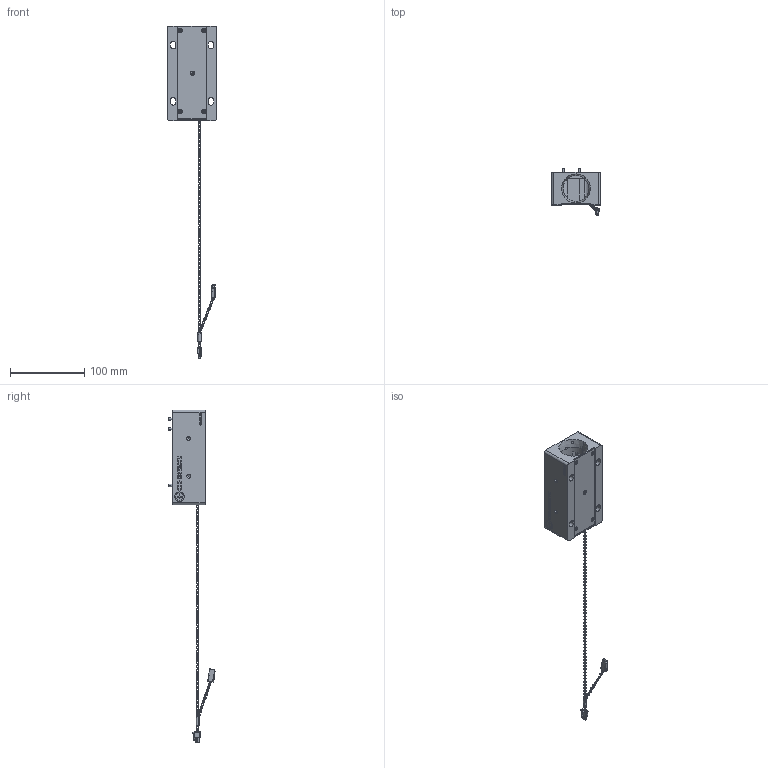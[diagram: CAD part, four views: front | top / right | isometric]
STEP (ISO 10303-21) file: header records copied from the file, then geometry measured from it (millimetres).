
FILE_DESCRIPTION (( 'STEP AP214' ), '1' );
FILE_NAME ('1073840rAM CUBE Heatsink Assembly.STEP', '2011-03-21T14:19:11', ( 'coherent' ), ( '' ), 'SwSTEP 2.0', 'SolidWorks 2011', '' );
FILE_SCHEMA (( 'AUTOMOTIVE_DESIGN' ));
Length unit declared in the file: inch
Products named in the file (1): 1073840rAM CUBE Heatsink Assembly
Bounding box: 66.05 x 63.22 x 445.75 mm (x, y, z)
Volume: 237388.6 mm3; surface area: 77095.6 mm2
Topology: 25 solids, 25 shells, 1354 faces, 3458 edges, 2222 vertices
Faces by surface type: plane 798, cylinder 270, bspline 185, cone 101
Entity records: 90789 total; most frequent: CARTESIAN_POINT 41121, ORIENTED_EDGE 6836, DIRECTION 5895, EDGE_CURVE 3418, LINE 2339, VECTOR 2339, VERTEX_POINT 2222, AXIS2_PLACEMENT_3D 1778
